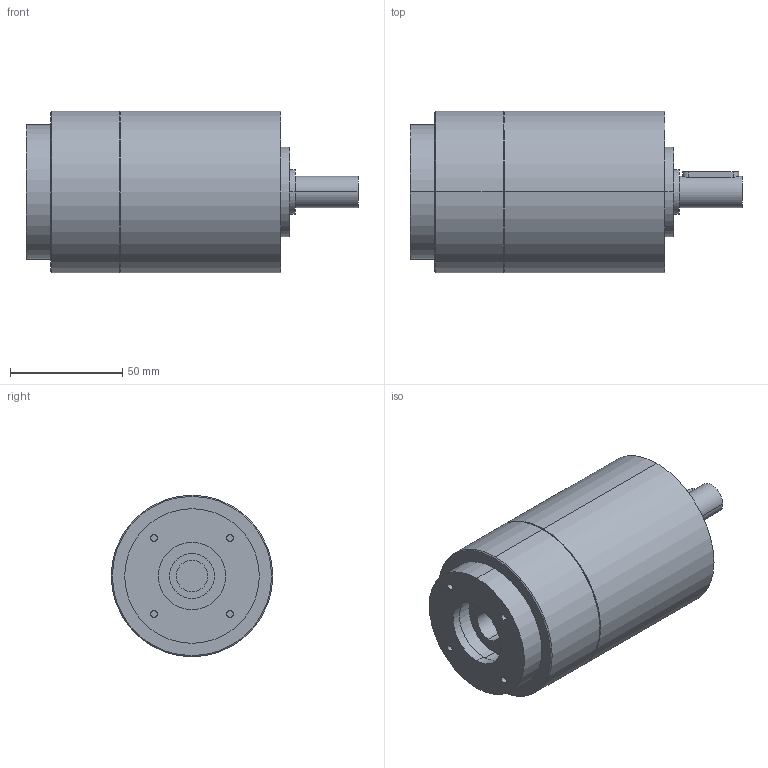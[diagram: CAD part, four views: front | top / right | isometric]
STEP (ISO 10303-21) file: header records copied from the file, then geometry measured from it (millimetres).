
FILE_DESCRIPTION(('CoCreate Modeling STEP Export'),'2;1');
FILE_NAME('GPT75_ig-9-12-16-20-25-28-35-40-50-70-100_14_B14T_14_P29.stp','2014-08-27T13:17:24',(''),(''),'CoCreate Modeling STEP processor for AP214 (Solid Model)','CoCreate Modeling 16.00C 25-Feb-2009 (C) Parametric Technology GmbH','');
FILE_SCHEMA(('AUTOMOTIVE_DESIGN { 1 0 10303 214 1 1 1 1 }'));
Length unit declared in the file: millimetre
Products named in the file (2): GPT75_ig-9-12-16-20-25-28-35-40-50-70-100_14_B14T_14_P29
Assembly tree (1 placements, depth 2):
  GPT75_ig-9-12-16-20-25-28-35-40-50-70-100_14_B14T_14_P29
    GPT75_ig-9-12-16-20-25-28-35-40-50-70-100_14_B14T_14_P29
Bounding box: 148 x 72 x 72 mm (x, y, z)
Volume: 445137.9 mm3; surface area: 39649.3 mm2
Topology: 1 solids, 1 shells, 67 faces, 149 edges, 102 vertices
Faces by surface type: cylinder 40, plane 23, cone 4
Entity records: 1948 total; most frequent: CARTESIAN_POINT 625, ORIENTED_EDGE 298, DIRECTION 220, EDGE_CURVE 149, VERTEX_POINT 102, AXIS2_PLACEMENT_3D 85, EDGE_LOOP 85, FACE_OUTER_BOUND 67
